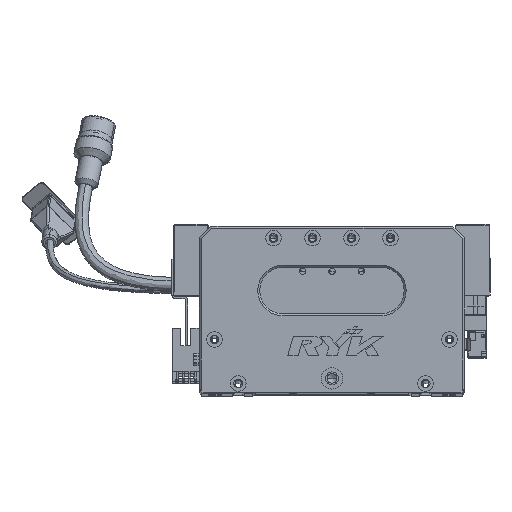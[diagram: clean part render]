
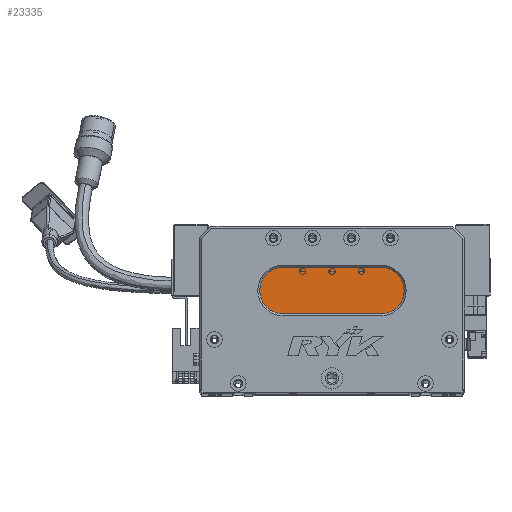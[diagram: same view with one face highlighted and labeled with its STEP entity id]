
A CAD part, top view. The second image highlights one B-rep face of the part: STEP entity #23335.
In plain terms, the highlighted planar face has unit normal (0, 0, 1) as drawn and (0, 0, -1) by its records, which use the part's own axes.
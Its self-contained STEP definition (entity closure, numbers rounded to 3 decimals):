
#2346 = VERTEX_POINT ( 'NONE', #74383 ) ;
#3691 = VERTEX_POINT ( 'NONE', #24572 ) ;
#4341 = DIRECTION ( 'NONE',  ( 0., 0., -1. ) ) ;
#6676 = EDGE_CURVE ( 'NONE', #2346, #45583, #37275, .T. ) ;
#7191 = CARTESIAN_POINT ( 'NONE',  ( 93., 64., 13. ) ) ;
#7323 = ORIENTED_EDGE ( 'NONE', *, *, #37485, .T. ) ;
#10543 = CARTESIAN_POINT ( 'NONE',  ( 93., 64., 13. ) ) ;
#11006 = AXIS2_PLACEMENT_3D ( 'NONE', #29867, #24103, #18312 ) ;
#13469 = AXIS2_PLACEMENT_3D ( 'NONE', #68791, #36370, #81444 ) ;
#17316 = PLANE ( 'NONE',  #37486 ) ;
#18312 = DIRECTION ( 'NONE',  ( -1., 0., 0. ) ) ;
#23335 = ADVANCED_FACE ( 'NONE', ( #39940 ), #17316, .T. ) ;
#24103 = DIRECTION ( 'NONE',  ( 0., 0., -1. ) ) ;
#24572 = CARTESIAN_POINT ( 'NONE',  ( 31., 52., 13. ) ) ;
#25332 = CIRCLE ( 'NONE', #64322, 12. ) ;
#25865 = CARTESIAN_POINT ( 'NONE',  ( 93., 40., 13. ) ) ;
#27948 = ORIENTED_EDGE ( 'NONE', *, *, #42675, .T. ) ;
#29867 = CARTESIAN_POINT ( 'NONE',  ( 43., 52., 13. ) ) ;
#31546 = EDGE_CURVE ( 'NONE', #45583, #3691, #58146, .T. ) ;
#35282 = VECTOR ( 'NONE', #51225, 1000. ) ;
#36370 = DIRECTION ( 'NONE',  ( 0., 0., -1. ) ) ;
#37275 = LINE ( 'NONE', #25865, #35282 ) ;
#37485 = EDGE_CURVE ( 'NONE', #81273, #39982, #81384, .T. ) ;
#37486 = AXIS2_PLACEMENT_3D ( 'NONE', #78999, #61406, #60313 ) ;
#38802 = CARTESIAN_POINT ( 'NONE',  ( 43., 40., 13. ) ) ;
#39208 = DIRECTION ( 'NONE',  ( 1., 0., 0. ) ) ;
#39940 = FACE_OUTER_BOUND ( 'NONE', #52822, .T. ) ;
#39982 = VERTEX_POINT ( 'NONE', #10543 ) ;
#42675 = EDGE_CURVE ( 'NONE', #3691, #81273, #25332, .T. ) ;
#45583 = VERTEX_POINT ( 'NONE', #38802 ) ;
#45982 = VECTOR ( 'NONE', #39208, 1000. ) ;
#49284 = DIRECTION ( 'NONE',  ( -1., 0., 0. ) ) ;
#50324 = ORIENTED_EDGE ( 'NONE', *, *, #31546, .T. ) ;
#51225 = DIRECTION ( 'NONE',  ( -1., 0., 0. ) ) ;
#52408 = ORIENTED_EDGE ( 'NONE', *, *, #6676, .T. ) ;
#52822 = EDGE_LOOP ( 'NONE', ( #60199, #52408, #50324, #27948, #7323 ) ) ;
#54067 = CARTESIAN_POINT ( 'NONE',  ( 43., 64., 13. ) ) ;
#58146 = CIRCLE ( 'NONE', #11006, 12. ) ;
#60199 = ORIENTED_EDGE ( 'NONE', *, *, #73443, .T. ) ;
#60313 = DIRECTION ( 'NONE',  ( -1., 0., 0. ) ) ;
#61406 = DIRECTION ( 'NONE',  ( 0., 0., -1. ) ) ;
#61669 = CARTESIAN_POINT ( 'NONE',  ( 43., 52., 13. ) ) ;
#64322 = AXIS2_PLACEMENT_3D ( 'NONE', #61669, #4341, #49284 ) ;
#68791 = CARTESIAN_POINT ( 'NONE',  ( 93., 52., 13. ) ) ;
#73443 = EDGE_CURVE ( 'NONE', #39982, #2346, #79846, .T. ) ;
#74383 = CARTESIAN_POINT ( 'NONE',  ( 93., 40., 13. ) ) ;
#78999 = CARTESIAN_POINT ( 'NONE',  ( 93., 52., 13. ) ) ;
#79846 = CIRCLE ( 'NONE', #13469, 12. ) ;
#81273 = VERTEX_POINT ( 'NONE', #54067 ) ;
#81384 = LINE ( 'NONE', #7191, #45982 ) ;
#81444 = DIRECTION ( 'NONE',  ( -1., 0., 0. ) ) ;
